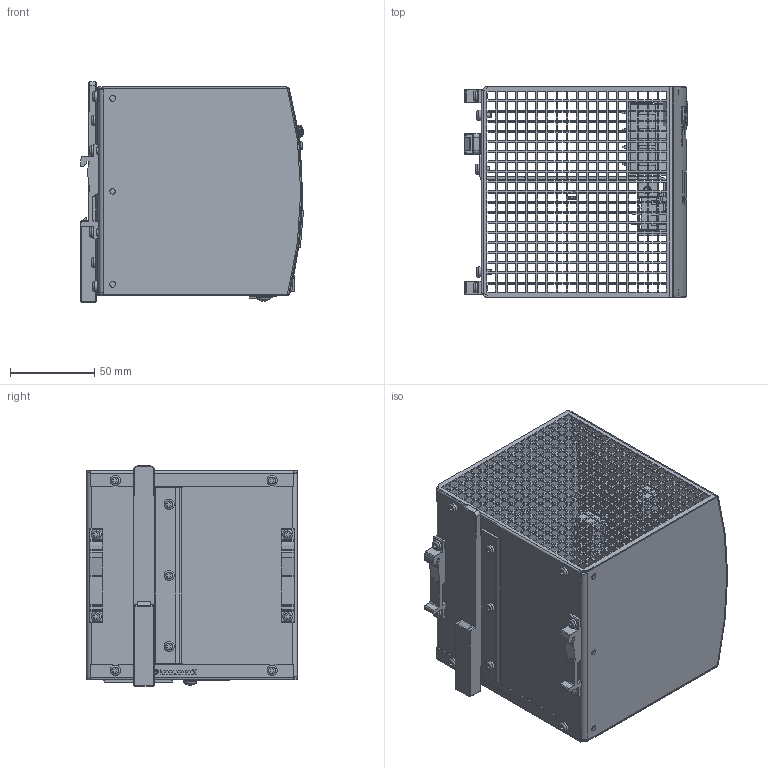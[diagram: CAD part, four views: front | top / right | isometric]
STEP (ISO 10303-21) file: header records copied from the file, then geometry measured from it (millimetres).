
FILE_DESCRIPTION(/* description */ ('HOUSING BODY','CAx-IF Rec.Pracs.---Representation and Presentation of Product Manufacturing Information (PMI)---3.8---2014-02-18'),/* implementation_level */ '2;1');
FILE_NAME(/* name */ 'L:\MKT-GER\Daten von KO\QS40.241 (AN-384.02)\md3_qs40_241.stp',/* time_stamp */ '2017-01-18T11:45:29+01:00',/* author */ ('rahns'),/* organization */ (''),/* preprocessor_version */ 'ST-DEVELOPER v16.1',/* originating_system */ 'Autodesk Inventor 2016',/* authorisation */ '');
FILE_SCHEMA (('AP242_MANAGED_MODEL_BASED_3D_ENGINEERING_MIM_LF { 1 0 10303 442 1 1 4 }'));
Products named in the file (19): HOUSING BODY 384.00; HOUSING BODY 384.00-2; MKT_SCREW 3x6; MKT_SLIDER; MKT_T HOLDER; HOUSING BODY 384.00_1; HOUSING COVER 384.00; FRONTFOIL 384.03; MKT_JUMPER; MKT_POTI COVER; MKT_SCREW 4x8; MKT_WASHER 4; MKT_LED GN; MKT_LED RD; MKT-LP2BK-D5; MKT-LP3BK-D1; MKT-LP4SW-R3; MKT_JUMPER BRACKET; 384.02
Assembly tree (30 placements, depth 3):
  384.02
    HOUSING BODY 384.00
    HOUSING BODY 384.00_1
      HOUSING BODY 384.00-2
      MKT_SCREW 3x6  x2
      MKT_SLIDER
      MKT_T HOLDER
    MKT_SCREW 3x6  x9
    MKT_T HOLDER
    HOUSING COVER 384.00
    FRONTFOIL 384.03
    MKT_JUMPER
    MKT_POTI COVER
    MKT_SCREW 4x8
    MKT_WASHER 4
    MKT_LED GN
    MKT_LED RD
    MKT-LP2BK-D5  x2
    MKT-LP3BK-D1
    MKT-LP4SW-R3
    MKT_JUMPER BRACKET
Bounding box: 132.31 x 125 x 130.5 mm (x, y, z)
Volume: 138850.8 mm3; surface area: 218058.8 mm2
Topology: 30 solids, 31 shells, 5713 faces, 16225 edges, 10751 vertices
Faces by surface type: plane 4530, bspline 599, cylinder 479, cone 54, torus 38, sphere 13
Full cylindrical faces by diameter (mm): 0.3 x3, 1 x2, 2.45 x2, 2.696 x1, 3 x14, 3.1 x4, 3.145 x1, 3.2 x5, 3.4 x4, 3.5 x2, 3.621 x1, 4 x1, 4.355 x1, 4.5 x3, 4.6 x2, 5.05 x3, 5.2 x3, 6 x11, 7 x4, 7.35 x4
Entity records: 191518 total; most frequent: CARTESIAN_POINT 53031, ORIENTED_EDGE 29930, DIRECTION 24453, EDGE_CURVE 14965, LINE 12387, VECTOR 12387, VERTEX_POINT 9972, EDGE_LOOP 6961
